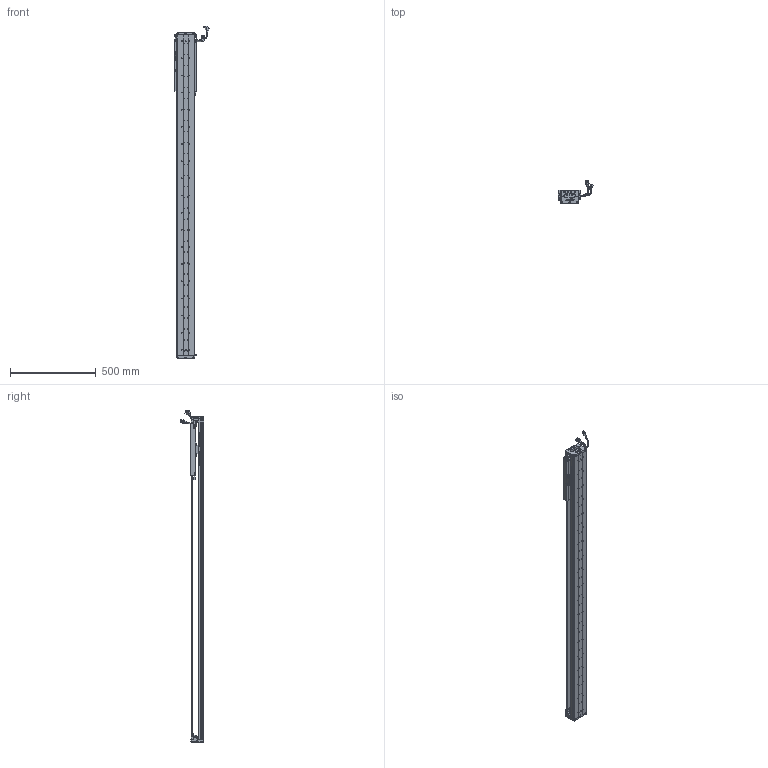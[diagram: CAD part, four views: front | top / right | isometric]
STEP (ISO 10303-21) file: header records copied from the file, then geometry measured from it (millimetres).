
FILE_DESCRIPTION (( 'STEP AP203' ), '1' );
FILE_NAME ('Z4-RY100D-1-L500-B-K.SLDASM_1500.step', '2021-05-17T03:03:03', ( '盈信电脑' ), ( '东莞市道滘镇水果街19号' ), 'SwSTEP 2.0', 'SolidWorks 2016', '' );
FILE_SCHEMA (( 'CONFIG_CONTROL_DESIGN' ));
Length unit declared in the file: millimetre
Products named in the file (36): COVER; 榋妏寠巭燃_暯_M2_2; HARNESS-Part-1; 140雄赽晤鎢ん堤盄; Z4-RY100D-1-L500-B-K.SLDASM_1500; SEAL-Part-1; SCALE; COVER-Part-1; Z-RY100D詩湍狟揤裔; Z-RY100D覜茼んえ; SCREW-M1.7-1; SCREW-M1.6-2; LABEL-Part-1; PSLH080_PSLF2; SHIELDPLATE; SCREW-M1.6-3; Z-100詩湍傷裔啣; HARNESS; Z-RY100D詩湍奻揤裔; 覜茼ん672; SCALE-Part-2; SCREW-M1.6-1; Z4-RY100铝滑块（21款）; LABEL; Z4-RY100D-500-倰第菁釱_1500; SCREW-M1.7; SCREW-M1.6; SCALE-Part-1; Z4-RY100-L500詩湍90mm遵_1500; HOLDER0; 140蚥薯蝶輸; PBU_SHEET; 100-Z-臏賑輸盄裔(21遴); SEAL; HARNESS-Part-2; 080黍杅芛假蚾釱21遴
Assembly tree (43 placements, depth 4):
  Z4-RY100D-1-L500-B-K.SLDASM_1500
    Z4-RY100D-500-倰第菁釱_1500
    Z4-RY100铝滑块（21款）
    PSLH080_PSLF2
      SCALE
        SCALE-Part-1
        SCALE-Part-2
      HARNESS
        HARNESS-Part-1
        HARNESS-Part-2
      LABEL
        LABEL-Part-1
      COVER
        COVER-Part-1
      SEAL
        SEAL-Part-1
      榋妏寠巭燃_暯_M2_2
      SHIELDPLATE
      SCREW-M1.7
      SCREW-M1.7-1
      PBU_SHEET
      SCREW-M1.6
      SCREW-M1.6-1
      SCREW-M1.6-2
      SCREW-M1.6-3
      HOLDER0
    080黍杅芛假蚾釱21遴
    Z-100詩湍傷裔啣  x2
    140蚥薯蝶輸  x2
    覜茼ん672  x3
    Z-RY100D覜茼んえ  x3
    100-Z-臏賑輸盄裔(21遴)
    140雄赽晤鎢ん堤盄
    Z4-RY100-L500詩湍90mm遵_1500
    Z-RY100D詩湍狟揤裔  x2
    Z-RY100D詩湍奻揤裔  x2
Bounding box: 205.83 x 136.11 x 1935.43 mm (x, y, z)
Volume: 3821951.7 mm3; surface area: 1473003.1 mm2
Topology: 38 solids, 38 shells, 2818 faces, 7561 edges, 4808 vertices
Faces by surface type: cylinder 1314, plane 1156, cone 226, torus 69, bspline 53
Entity records: 79425 total; most frequent: CARTESIAN_POINT 16670, DIRECTION 12717, ORIENTED_EDGE 12002, EDGE_CURVE 6001, AXIS2_PLACEMENT_3D 4739, VERTEX_POINT 3876, LINE 3239, VECTOR 3239
